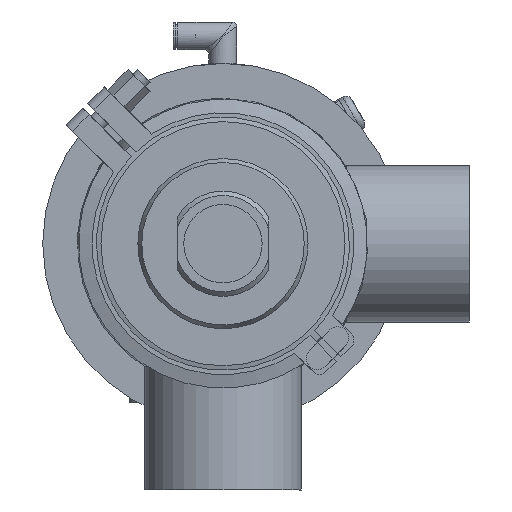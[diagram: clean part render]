
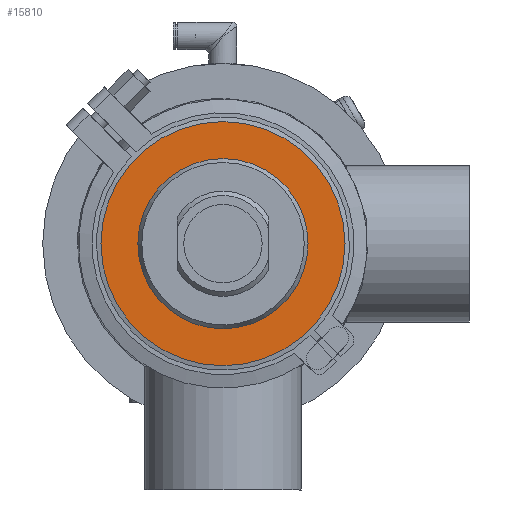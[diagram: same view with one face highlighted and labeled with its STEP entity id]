
A CAD part, front view. The second image highlights one B-rep face of the part: STEP entity #15810.
In plain terms, the highlighted planar face has unit normal (0, -1, 0).
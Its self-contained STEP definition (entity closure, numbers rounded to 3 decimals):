
#4519 = EDGE_CURVE ( 'NONE', #36425, #36425, #29820, .T. ) ;
#5042 = DIRECTION ( 'NONE',  ( 0., 1., 0. ) ) ;
#8855 = DIRECTION ( 'NONE',  ( 0., 0., 1. ) ) ;
#11100 = EDGE_LOOP ( 'NONE', ( #29533 ) ) ;
#11284 = EDGE_CURVE ( 'NONE', #14600, #14600, #49404, .T. ) ;
#14600 = VERTEX_POINT ( 'NONE', #58197 ) ;
#15810 = ADVANCED_FACE ( 'NONE', ( #37463, #47570 ), #27329, .T. ) ;
#16805 = DIRECTION ( 'NONE',  ( 0., 0., 1. ) ) ;
#18487 = DIRECTION ( 'NONE',  ( 0., 0., -1. ) ) ;
#22116 = AXIS2_PLACEMENT_3D ( 'NONE', #43626, #5042, #8855 ) ;
#22491 = DIRECTION ( 'NONE',  ( 0., 1., 0. ) ) ;
#26993 = DIRECTION ( 'NONE',  ( 0., -1., 0. ) ) ;
#27329 = PLANE ( 'NONE',  #36556 ) ;
#29533 = ORIENTED_EDGE ( 'NONE', *, *, #11284, .T. ) ;
#29820 = CIRCLE ( 'NONE', #42923, 54.5 ) ;
#36425 = VERTEX_POINT ( 'NONE', #37048 ) ;
#36556 = AXIS2_PLACEMENT_3D ( 'NONE', #56395, #26993, #18487 ) ;
#37048 = CARTESIAN_POINT ( 'NONE',  ( 0., -13., 54.5 ) ) ;
#37463 = FACE_BOUND ( 'NONE', #11100, .T. ) ;
#39398 = ORIENTED_EDGE ( 'NONE', *, *, #4519, .F. ) ;
#40827 = CARTESIAN_POINT ( 'NONE',  ( 0., -13., 0. ) ) ;
#42923 = AXIS2_PLACEMENT_3D ( 'NONE', #40827, #22491, #16805 ) ;
#43626 = CARTESIAN_POINT ( 'NONE',  ( 0., -13., 0. ) ) ;
#47570 = FACE_OUTER_BOUND ( 'NONE', #48746, .T. ) ;
#48746 = EDGE_LOOP ( 'NONE', ( #39398 ) ) ;
#49404 = CIRCLE ( 'NONE', #22116, 38. ) ;
#56395 = CARTESIAN_POINT ( 'NONE',  ( -54.5, -13., 0. ) ) ;
#58197 = CARTESIAN_POINT ( 'NONE',  ( 0., -13., 38. ) ) ;
